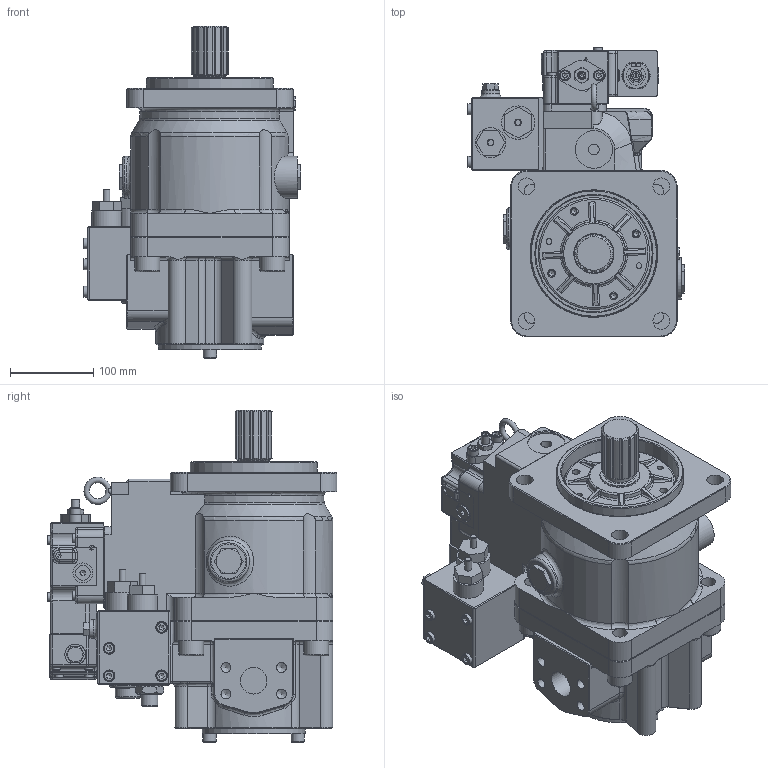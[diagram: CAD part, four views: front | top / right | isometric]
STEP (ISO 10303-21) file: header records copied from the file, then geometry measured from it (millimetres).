
FILE_DESCRIPTION((''),'2;1');
FILE_NAME('J:\Inventor\K3V, M2X\MODEL LIBRARY\K3VL140B 1NRSS L0 1-E0.stp','2008-04-07T08:46:19',('mnorman'),(''),'Autodesk Inventor 2008','Autodesk Inventor 2008','');
FILE_SCHEMA(('AUTOMOTIVE_DESIGN { 1 0 10303 214 1 1 1 1 }'));
Length unit declared in the file: millimetre
Products named in the file (1): Part4
Bounding box: 261 x 348 x 398.5 mm (x, y, z)
Volume: 13364768.6 mm3; surface area: 698314.6 mm2
Topology: 48 solids, 48 shells, 1871 faces, 4404 edges, 2680 vertices
Faces by surface type: plane 887, cylinder 363, bspline 347, cone 217, torus 43, sphere 14
Full cylindrical faces by diameter (mm): 6 x10, 8 x9, 9 x1, 9.5 x5, 10 x13, 11 x12, 11.4 x2, 12.717 x1, 12.75 x1, 13 x6, 14 x1, 16 x4, 18 x1, 20 x10, 21 x1, 22 x1, 22.804 x1, 24 x1, 25 x2, 30 x5, 31 x1, 32 x2, 36 x1, 36.7 x1, 40 x1, 41 x2, 45 x1, 48 x2, 50 x2, 64 x1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
Entity records: 62166 total; most frequent: CARTESIAN_POINT 21922, DIRECTION 7779, ORIENTED_EDGE 7568, EDGE_CURVE 3784, AXIS2_PLACEMENT_3D 2999, VERTEX_POINT 2468, EDGE_LOOP 2382, FACE_OUTER_BOUND 1870
